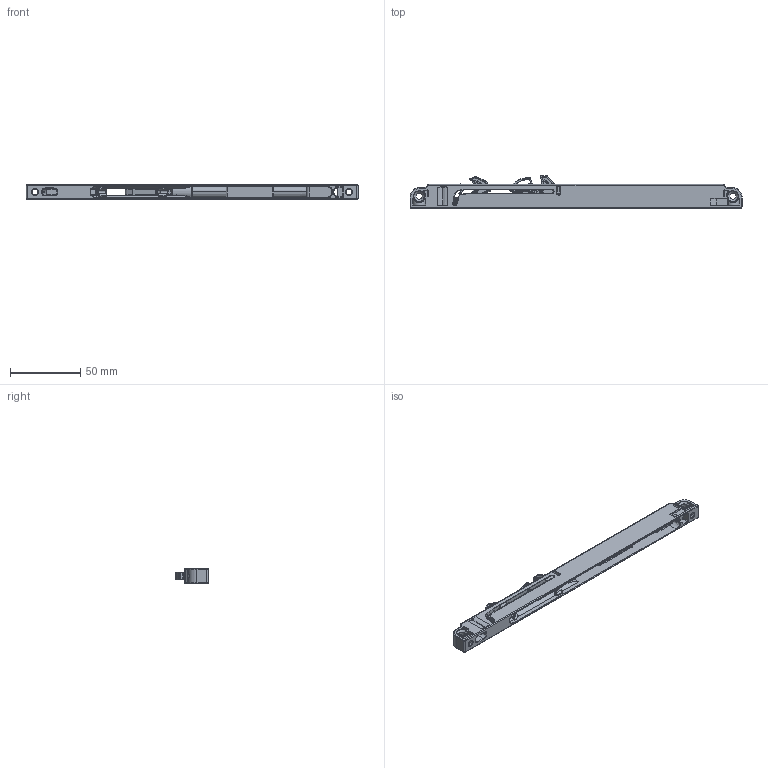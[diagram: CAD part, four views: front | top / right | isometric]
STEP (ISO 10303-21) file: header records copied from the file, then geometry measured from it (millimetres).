
FILE_DESCRIPTION((''),'2;1');
FILE_NAME('E050-08-228_SW0001','2020-06-22T',('pcammann'),(''),'CREO PARAMETRIC BY PTC INC, 2017020','CREO PARAMETRIC BY PTC INC, 2017020','');
FILE_SCHEMA(('AUTOMOTIVE_DESIGN { 1 0 10303 214 1 1 1 1 }'));
Products named in the file (1): E050-08-228_SW0001
Bounding box: 237 x 23.3 x 10.41 mm (x, y, z)
Volume: 20069.6 mm3; surface area: 27749.2 mm2
Topology: 5 solids, 5 shells, 2398 faces, 5645 edges, 3252 vertices
Faces by surface type: cylinder 876, torus 575, bspline 436, plane 377, sphere 58, cone 48, extrusion 28
Entity records: 154723 total; most frequent: CARTESIAN_POINT 67032, ORIENTED_EDGE 11286, DIRECTION 11270, PRESENTATION_STYLE_ASSIGNMENT 8056, STYLED_ITEM 5676, CURVE_STYLE 5671, EDGE_CURVE 5643, AXIS2_PLACEMENT_3D 4727
